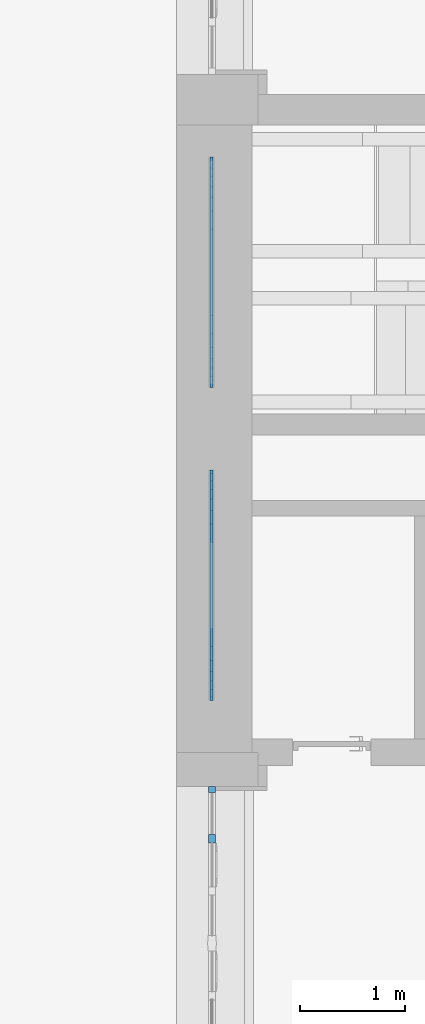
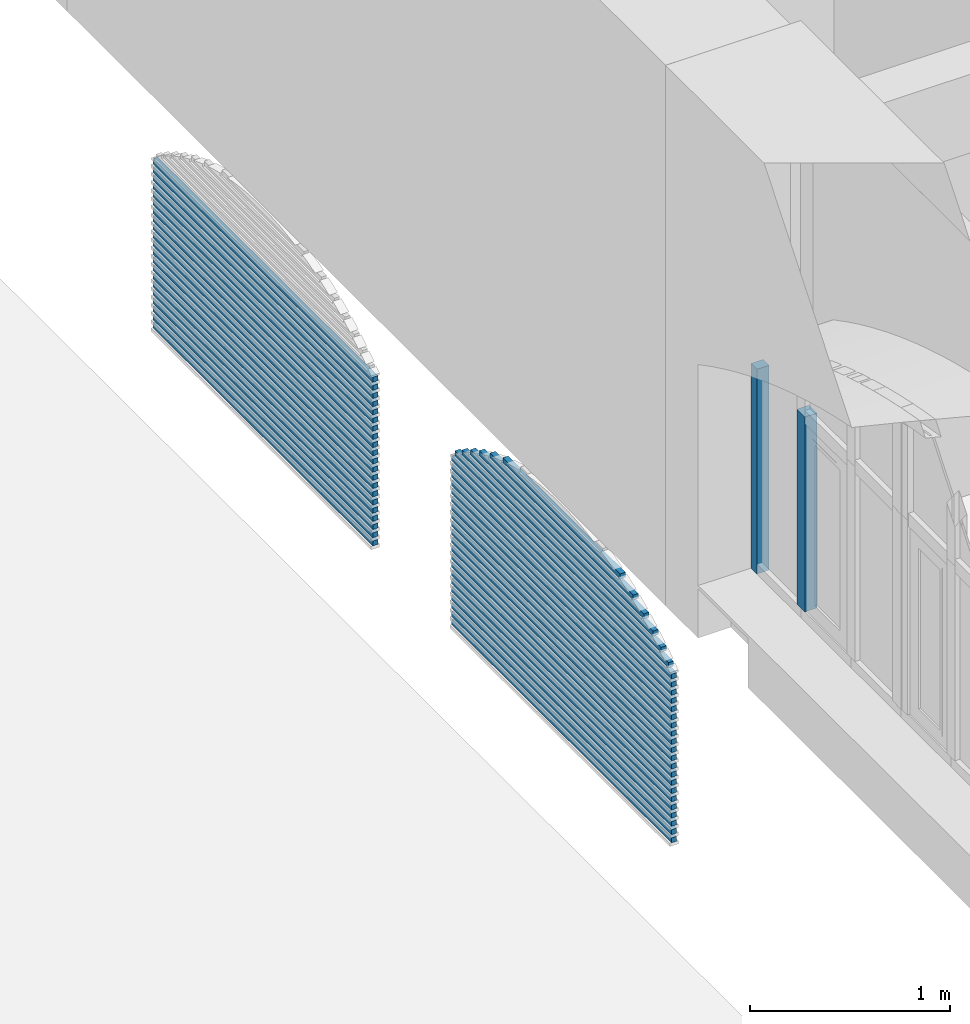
# One storey, part 9 of 88: 50 members, 3 elements without a shape of their own.
"""IFC2X3 building model written with IfcOpenShell, lengths in millimetres."""

import ifcopenshell
import ifcopenshell.guid

model = None  # the IFC model being written
_history = None  # IfcOwnerHistory: only IFC2X3 demands one
_inside = {}  # id of a spatial element -> (the spatial element, [elements in it])
_under = {}  # id of a project, library or spatial element -> (it, [spatial elements below it])
_declared = {}  # id of a project -> (the project, [libraries it declares])
_typed = {}  # id of a type object -> (the type object, [elements of that type])
_made_of = {}  # id of a material, layer set ... -> (it, [elements and type objects made of it])


def new_model(schema):
    """Start an empty IFC model of exactly this schema.

    Asked for "IFC4X3", IfcOpenShell would pick the latest addendum, in which some entities
    have other attributes; the version numbers below select the first issue.
    IFC2X3 requires an IfcOwnerHistory on every rooted entity: one is made here for all.
    """
    global model, _history
    if schema == "IFC4X3":
        model = ifcopenshell.file(schema_version=(4, 3, 0, 0))
    else:
        model = ifcopenshell.file(schema=schema)
    _inside.clear()
    _under.clear()
    _declared.clear()
    _typed.clear()
    _made_of.clear()
    _history = None
    if model.schema == "IFC2X3":
        org = make("IfcOrganization", Name="unknown")
        user = make(
            "IfcPersonAndOrganization",
            ThePerson=make("IfcPerson", FamilyName="unknown"),
            TheOrganization=org,
        )
        app = make(
            "IfcApplication",
            ApplicationDeveloper=org,
            Version="unknown",
            ApplicationFullName="unknown",
            ApplicationIdentifier="unknown",
        )
        _history = make(
            "IfcOwnerHistory",
            OwningUser=user,
            OwningApplication=app,
            ChangeAction="ADDED",
            CreationDate=0,
        )
    return model


def make(cls, **values):
    """One entity of the class cls with the attributes given. An attribute that is None is left unset."""
    return model.create_entity(
        cls, **{name: value for name, value in values.items() if value is not None}
    )


def entity(cls, *values):
    """Any entity or typed value of the class cls, its attributes in the order of the schema. None: left unset."""
    e = model.create_entity(cls)
    for i, value in enumerate(values):
        if value is not None:
            e[i] = value
    return e


def rooted(cls, **values):
    """An entity with a GlobalId (a new one), such as an element, a storey or a relation."""
    return make(cls, GlobalId=ifcopenshell.guid.new(), OwnerHistory=_history, **values)


def si_unit(unit_type, name, prefix=None):
    """IfcSIUnit, for example si_unit("LENGTHUNIT", "METRE", prefix="MILLI")."""
    return make("IfcSIUnit", UnitType=unit_type, Prefix=prefix, Name=name)


def converted_unit(unit_type, name, factor, base, dimensions=None, offset=None):
    """IfcConversionBasedUnit, such as the inch: factor (a typed value) times the base unit."""
    return make(
        "IfcConversionBasedUnit"
        if offset is None
        else "IfcConversionBasedUnitWithOffset",
        ConversionOffset=offset,
        Dimensions=None
        if dimensions is None
        else entity("IfcDimensionalExponents", *dimensions),
        UnitType=unit_type,
        Name=name,
        ConversionFactor=make(
            "IfcMeasureWithUnit", ValueComponent=factor, UnitComponent=base
        ),
    )


def derived_unit(unit_type, elements):
    """IfcDerivedUnit: a product of units, each with its exponent."""
    return make(
        "IfcDerivedUnit",
        Elements=[
            make("IfcDerivedUnitElement", Unit=unit, Exponent=power)
            for unit, power in elements
        ],
        UnitType=unit_type,
    )


def assignment(units):
    """IfcUnitAssignment: the units of a project."""
    return None if units is None else make("IfcUnitAssignment", Units=units)


def point(xyz):
    """IfcCartesianPoint."""
    return None if xyz is None else make("IfcCartesianPoint", Coordinates=xyz)


def direction(xyz):
    """IfcDirection."""
    return None if xyz is None else make("IfcDirection", DirectionRatios=xyz)


def frame(location, z_axis=None, x_axis=None):
    """IfcAxis2Placement3D, a coordinate frame: its origin and axes. An axis left out is left unset."""
    return make(
        "IfcAxis2Placement3D",
        Location=point(location),
        Axis=direction(z_axis),
        RefDirection=direction(x_axis),
    )


def frame_2d(location, x_axis=None):
    """IfcAxis2Placement2D, a coordinate frame in the plane: its origin and x axis."""
    return make(
        "IfcAxis2Placement2D", Location=point(location), RefDirection=direction(x_axis)
    )


def origin():
    """The frame at (0, 0, 0) with its axes left unset."""
    return frame((0.0, 0.0, 0.0))


def origin_2d_with_axis():
    """The frame at (0, 0) in the plane with the x axis (1, 0) written out."""
    return frame_2d((0.0, 0.0), x_axis=(1.0, 0.0))


def place(relative_to, where):
    """IfcLocalPlacement: puts the frame where relative to a parent placement (None: the world)."""
    return make(
        "IfcLocalPlacement", PlacementRelTo=relative_to, RelativePlacement=where
    )


def context(
    kind, dimensions, precision=None, world=None, true_north=None, identifier=None
):
    """IfcGeometricRepresentationContext, for example the 3D "Model" context."""
    return make(
        "IfcGeometricRepresentationContext",
        ContextIdentifier=identifier,
        ContextType=kind,
        CoordinateSpaceDimension=dimensions,
        Precision=precision,
        WorldCoordinateSystem=world,
        TrueNorth=true_north,
    )


def subcontext(parent, identifier, kind, view, scale=None):
    """IfcGeometricRepresentationSubContext, for example "Body" below "Model"."""
    return make(
        "IfcGeometricRepresentationSubContext",
        ContextIdentifier=identifier,
        ContextType=kind,
        ParentContext=parent,
        TargetScale=scale,
        TargetView=view,
    )


def project(units=None, contexts=None):
    """IfcProject with its units and contexts."""
    return rooted(
        "IfcProject",
        Name="project",
        RepresentationContexts=contexts,
        UnitsInContext=assignment(units),
    )


def spatial(cls, under=None, at=None, **own):
    """A site, building, storey or space (cls), placed at a placement, below another one or the project."""
    s = rooted(cls, ObjectPlacement=at, **own)
    if under is not None:
        _under.setdefault(under.id(), (under, []))[1].append(s)
    return s


def profile(cls, at=None, kind="AREA", **sizes):
    """A parametric profile (cls). Its sizes go by their IFC names, for example OverallWidth=200.0."""
    return make(cls, ProfileType=kind, Position=at, **sizes)


def rectangle(**sizes):
    """IfcRectangleProfileDef."""
    return profile("IfcRectangleProfileDef", **sizes)


def extrude(swept, where, along, depth):
    """IfcExtrudedAreaSolid: the profile swept, set in the frame where, extruded along a direction by depth."""
    return make(
        "IfcExtrudedAreaSolid",
        SweptArea=swept,
        Position=where,
        ExtrudedDirection=direction(along),
        Depth=depth,
    )


def shape(context_of_items, identifier, shape_type, items):
    """IfcShapeRepresentation: the items that make up one representation, for example the "Body"."""
    return make(
        "IfcShapeRepresentation",
        ContextOfItems=context_of_items,
        RepresentationIdentifier=identifier,
        RepresentationType=shape_type,
        Items=items,
    )


def source(mapping_origin, context_of_items, identifier, shape_type, items):
    """IfcRepresentationMap: a shape defined once, which mapped items show again and again."""
    return make(
        "IfcRepresentationMap",
        MappingOrigin=mapping_origin,
        MappedRepresentation=shape(context_of_items, identifier, shape_type, items),
    )


def transform(
    local_origin,
    x_axis=None,
    y_axis=None,
    z_axis=None,
    scale=None,
    scale2=None,
    scale3=None,
    uniform=True,
):
    """IfcCartesianTransformationOperator3D, or its non-uniform kind. x_axis, y_axis, z_axis: its Axis1, 2, 3."""
    if uniform:
        return make(
            "IfcCartesianTransformationOperator3D",
            Axis1=direction(x_axis),
            Axis2=direction(y_axis),
            LocalOrigin=point(local_origin),
            Scale=scale,
            Axis3=direction(z_axis),
        )
    return make(
        "IfcCartesianTransformationOperator3DnonUniform",
        Axis1=direction(x_axis),
        Axis2=direction(y_axis),
        LocalOrigin=point(local_origin),
        Scale=scale,
        Axis3=direction(z_axis),
        Scale2=scale2,
        Scale3=scale3,
    )


def mapped(mapping_source, mapping_target):
    """IfcMappedItem: shows the shape of a source again, moved by a transform."""
    return make(
        "IfcMappedItem", MappingSource=mapping_source, MappingTarget=mapping_target
    )


def material(Name=None, Category=None):
    """IfcMaterial."""
    return make("IfcMaterial", Name=Name, Category=Category)


def made_of(thing, what):
    """Note that an element or type object is made of a material, layer set ...; save() writes the relation."""
    if what is not None:
        _made_of.setdefault(what.id(), (what, []))[1].append(thing)
    return thing


def type_object(cls, material=None, **own):
    """A type object (cls), such as IfcWallType, which elements share."""
    return made_of(rooted(cls, **own), material)


def type_shapes(of_type, sources):
    """Give a type object the sources (RepresentationMaps) that its elements show as mapped items."""
    of_type.RepresentationMaps = sources


def element(
    cls,
    number,
    at=None,
    inside=None,
    cuts=None,
    type_object=None,
    material=None,
    context=None,
    identifier="Body",
    shape_type=None,
    held_by="IfcProductDefinitionShape",
    body=None,
    shapes=None,
    **own,
):
    """One element of the class cls, such as IfcWall. Its Tag is "e" and its number.

    at: its placement. inside: the storey or other place that contains it. cuts: it is an
    opening in that element (IfcRelVoidsElement). A single representation is given by context,
    identifier, shape_type and body (its items); several are given by shapes. held_by: the class
    of the entity that holds the representations. save() writes the other relations.
    """
    e = rooted(cls, Tag="e%d" % number, ObjectPlacement=at, **own)
    if body is not None:
        shapes = [shape(context, identifier, shape_type, body)]
    if shapes is not None:
        e.Representation = make(held_by, Representations=shapes)
    if inside is not None:
        _inside.setdefault(inside.id(), (inside, []))[1].append(e)
    if cuts is not None:
        rooted(
            "IfcRelVoidsElement", RelatingBuildingElement=cuts, RelatedOpeningElement=e
        )
    if type_object is not None:
        _typed.setdefault(type_object.id(), (type_object, []))[1].append(e)
    return made_of(e, material)


def aggregate(whole, parts):
    """IfcRelAggregates: a whole, such as a stair, and the parts it consists of."""
    return rooted("IfcRelAggregates", RelatingObject=whole, RelatedObjects=parts)


def save(model, path):
    """Write the relations noted so far, then the file.

    IfcRelAggregates (storeys below a building ...), IfcRelContainedInSpatialStructure (elements
    in a storey), IfcRelDefinesByType, IfcRelAssociatesMaterial and IfcRelDeclares: one each for
    every whole, place, type object, material and project.
    """
    for whole, parts in _under.values():
        aggregate(whole, parts)
    for where, things in _inside.values():
        rooted(
            "IfcRelContainedInSpatialStructure",
            RelatedElements=things,
            RelatingStructure=where,
        )
    for kind, things in _typed.values():
        rooted("IfcRelDefinesByType", RelatedObjects=things, RelatingType=kind)
    for what, things in _made_of.values():
        rooted("IfcRelAssociatesMaterial", RelatedObjects=things, RelatingMaterial=what)
    for by, libraries in _declared.values():
        rooted("IfcRelDeclares", RelatingContext=by, RelatedDefinitions=libraries)
    model.write(path)


model = new_model("IFC2X3")

# Units and contexts
model_context = context("Model", 3, precision=0.01, world=origin(), true_north=direction((6.123031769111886e-17, 1.0)))
body_context = subcontext(model_context, "Body", "Model", "MODEL_VIEW")
ifc_project = project(units=[si_unit("LENGTHUNIT", "METRE", prefix="MILLI"), si_unit("AREAUNIT", "SQUARE_METRE"), si_unit("VOLUMEUNIT", "CUBIC_METRE"), converted_unit("PLANEANGLEUNIT", "DEGREE", entity("IfcPlaneAngleMeasure", 0.017453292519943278), si_unit("PLANEANGLEUNIT", "RADIAN"), dimensions=[0, 0, 0, 0, 0, 0, 0]), si_unit("MASSUNIT", "GRAM", prefix="KILO"), derived_unit("MASSDENSITYUNIT", [(si_unit("MASSUNIT", "GRAM", prefix="KILO"), 1), (si_unit("LENGTHUNIT", "METRE"), -3)]), derived_unit("IONCONCENTRATIONUNIT", [(si_unit("MASSUNIT", "GRAM", prefix="KILO"), 1), (si_unit("LENGTHUNIT", "METRE"), -3)]), derived_unit("MOMENTOFINERTIAUNIT", [(si_unit("LENGTHUNIT", "METRE"), 4)]), si_unit("TIMEUNIT", "SECOND"), si_unit("FREQUENCYUNIT", "HERTZ"), si_unit("THERMODYNAMICTEMPERATUREUNIT", "DEGREE_CELSIUS"), derived_unit("THERMALTRANSMITTANCEUNIT", [(si_unit("MASSUNIT", "GRAM", prefix="KILO"), 1), (si_unit("THERMODYNAMICTEMPERATUREUNIT", "KELVIN"), -1), (si_unit("TIMEUNIT", "SECOND"), -3)]), derived_unit("THERMALCONDUCTANCEUNIT", [(si_unit("MASSUNIT", "GRAM", prefix="KILO"), 1), (si_unit("THERMODYNAMICTEMPERATUREUNIT", "KELVIN"), -1), (si_unit("TIMEUNIT", "SECOND"), -3), (si_unit("LENGTHUNIT", "METRE"), 1)]), derived_unit("VOLUMETRICFLOWRATEUNIT", [(si_unit("LENGTHUNIT", "METRE", prefix="DECI"), 3), (si_unit("TIMEUNIT", "SECOND"), -1)]), derived_unit("MASSFLOWRATEUNIT", [(si_unit("MASSUNIT", "GRAM", prefix="KILO"), 1), (si_unit("TIMEUNIT", "SECOND"), -1)]), derived_unit("ROTATIONALFREQUENCYUNIT", [(si_unit("TIMEUNIT", "SECOND"), -1)]), si_unit("ELECTRICCURRENTUNIT", "AMPERE"), si_unit("ELECTRICVOLTAGEUNIT", "VOLT"), si_unit("POWERUNIT", "WATT"), si_unit("FORCEUNIT", "NEWTON", prefix="KILO"), si_unit("ILLUMINANCEUNIT", "LUX"), si_unit("LUMINOUSFLUXUNIT", "LUMEN"), si_unit("LUMINOUSINTENSITYUNIT", "CANDELA"), si_unit("ENERGYUNIT", "JOULE"), derived_unit("USERDEFINED", [(si_unit("MASSUNIT", "GRAM", prefix="KILO"), -1), (si_unit("LENGTHUNIT", "METRE"), -2), (si_unit("TIMEUNIT", "SECOND"), 3), (si_unit("LUMINOUSFLUXUNIT", "LUMEN"), 1)]), derived_unit("USERDEFINED", [(si_unit("MASSUNIT", "GRAM", prefix="KILO"), 1), (si_unit("TIMEUNIT", "SECOND"), -3), (si_unit("LENGTHUNIT", "METRE"), 3), (si_unit("ELECTRICCURRENTUNIT", "AMPERE"), -2)]), derived_unit("SOUNDPOWERUNIT", [(si_unit("MASSUNIT", "GRAM", prefix="KILO"), 1), (si_unit("TIMEUNIT", "SECOND"), -3), (si_unit("LENGTHUNIT", "METRE"), 2)]), derived_unit("SOUNDPRESSUREUNIT", [(si_unit("MASSUNIT", "GRAM", prefix="KILO"), 1), (si_unit("LENGTHUNIT", "METRE"), -1), (si_unit("TIMEUNIT", "SECOND"), -2)]), derived_unit("LINEARVELOCITYUNIT", [(si_unit("LENGTHUNIT", "METRE"), 1), (si_unit("TIMEUNIT", "SECOND"), -1)]), si_unit("PRESSUREUNIT", "PASCAL"), derived_unit("USERDEFINED", [(si_unit("MASSUNIT", "GRAM", prefix="KILO"), 1), (si_unit("LENGTHUNIT", "METRE"), -2), (si_unit("TIMEUNIT", "SECOND"), -2)]), derived_unit("LINEARFORCEUNIT", [(si_unit("MASSUNIT", "GRAM", prefix="KILO"), 1), (si_unit("TIMEUNIT", "SECOND"), -2)]), derived_unit("PLANARFORCEUNIT", [(si_unit("MASSUNIT", "GRAM", prefix="KILO"), 1), (si_unit("LENGTHUNIT", "METRE"), -1), (si_unit("TIMEUNIT", "SECOND"), -2)]), derived_unit("SPECIFICHEATCAPACITYUNIT", [(si_unit("THERMODYNAMICTEMPERATUREUNIT", "KELVIN"), -1), (si_unit("LENGTHUNIT", "METRE"), 2), (si_unit("TIMEUNIT", "SECOND"), -2)]), derived_unit("HEATFLUXDENSITYUNIT", [(si_unit("MASSUNIT", "GRAM", prefix="KILO"), 1), (si_unit("TIMEUNIT", "SECOND"), -3)]), derived_unit("HEATINGVALUEUNIT", [(si_unit("LENGTHUNIT", "METRE"), 2), (si_unit("TIMEUNIT", "SECOND"), -2)]), derived_unit("VAPORPERMEABILITYUNIT", [(si_unit("LENGTHUNIT", "METRE"), -1), (si_unit("TIMEUNIT", "SECOND"), 1)]), derived_unit("DYNAMICVISCOSITYUNIT", [(si_unit("MASSUNIT", "GRAM", prefix="KILO"), 1), (si_unit("TIMEUNIT", "SECOND"), -1), (si_unit("LENGTHUNIT", "METRE"), -1)]), derived_unit("THERMALEXPANSIONCOEFFICIENTUNIT", [(si_unit("THERMODYNAMICTEMPERATUREUNIT", "KELVIN"), -1)]), derived_unit("MODULUSOFELASTICITYUNIT", [(si_unit("MASSUNIT", "GRAM", prefix="KILO"), 1), (si_unit("LENGTHUNIT", "METRE"), -1), (si_unit("TIMEUNIT", "SECOND"), -2)]), derived_unit("ISOTHERMALMOISTURECAPACITYUNIT", [(si_unit("MASSUNIT", "GRAM", prefix="KILO"), -1), (si_unit("LENGTHUNIT", "METRE"), 3)]), derived_unit("MOISTUREDIFFUSIVITYUNIT", [(si_unit("TIMEUNIT", "SECOND"), -1), (si_unit("LENGTHUNIT", "METRE"), 2)]), derived_unit("MASSPERLENGTHUNIT", [(si_unit("MASSUNIT", "GRAM", prefix="KILO"), 1), (si_unit("LENGTHUNIT", "METRE"), -1)]), derived_unit("THERMALRESISTANCEUNIT", [(si_unit("MASSUNIT", "GRAM", prefix="KILO"), -1), (si_unit("TIMEUNIT", "SECOND"), 3), (si_unit("THERMODYNAMICTEMPERATUREUNIT", "KELVIN"), 1)]), derived_unit("ACCELERATIONUNIT", [(si_unit("LENGTHUNIT", "METRE"), 1), (si_unit("TIMEUNIT", "SECOND"), -2)]), derived_unit("ANGULARVELOCITYUNIT", [(si_unit("TIMEUNIT", "SECOND"), -1), (si_unit("PLANEANGLEUNIT", "RADIAN"), 1)]), derived_unit("LINEARSTIFFNESSUNIT", [(si_unit("MASSUNIT", "GRAM", prefix="KILO"), 1), (si_unit("TIMEUNIT", "SECOND"), -2)]), derived_unit("WARPINGCONSTANTUNIT", [(si_unit("LENGTHUNIT", "METRE"), 6)]), derived_unit("LINEARMOMENTUNIT", [(si_unit("MASSUNIT", "GRAM", prefix="KILO"), 1), (si_unit("LENGTHUNIT", "METRE"), 1), (si_unit("TIMEUNIT", "SECOND"), -2)]), derived_unit("TORQUEUNIT", [(si_unit("MASSUNIT", "GRAM", prefix="KILO"), 1), (si_unit("LENGTHUNIT", "METRE"), 2), (si_unit("TIMEUNIT", "SECOND"), -2)])], contexts=[model_context])

# Site, building, storey
site_placement = place(None, origin())
site = spatial("IfcSite", under=ifc_project, at=site_placement, Name="Default", CompositionType="ELEMENT")
building_placement = place(site_placement, origin())
building = spatial("IfcBuilding", under=site, at=building_placement, Name="Eesti Rahvusraamatukogu hoone renoveerimise projekteerimistööd", CompositionType="ELEMENT")
storey_placement = place(building_placement, origin())
storey = spatial("IfcBuildingStorey", under=building, at=storey_placement, Name="1. korrus", CompositionType="ELEMENT", Elevation=0.0)

# Curtain wall, members
curtain_wall_type_1 = type_object("IfcCurtainWallType", Name="Curtain Wall:ol. olev MK vent. rest", PredefinedType="NOTDEFINED")
curtain_wall_1_placement = place(storey_placement, origin())
curtain_wall_1 = element("IfcCurtainWall", 1, at=curtain_wall_1_placement, inside=storey, type_object=curtain_wall_type_1, Name="Curtain Wall:ol. olev MK vent. rest", ObjectType="Curtain Wall:ol. olev MK vent. rest")
ifc_material_1 = material(Name="<Unnamed>")
member_type_1 = type_object("IfcMemberType", Name="Rectangular Mullion:30mm Square", PredefinedType="MULLION", material=ifc_material_1)
shared_shape_1 = source(origin(), body_context, "Body", "SweptSolid", [
    extrude(rectangle(XDim=30.0, YDim=30.0, at=origin_2d_with_axis()), frame((0.0, 0.0, -2200.0), z_axis=(0.0, 0.0, 1.0), x_axis=(-1.0, 0.0, 0.0)), (0.0, 0.0, 1.0), 2200.0000000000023),
])
type_shapes(member_type_1, [shared_shape_1])
member_1_placement = place(curtain_wall_1_placement, frame((-36445.0, 24810.0, -195.0), z_axis=(0.0, -1.0, 0.0), x_axis=(0.0, 0.0, 1.0)))
member_1 = element("IfcMember", 2, at=member_1_placement, type_object=member_type_1, material=ifc_material_1, Name="Rectangular Mullion:30mm Square", ObjectType="Rectangular Mullion:30mm Square", context=body_context, shape_type="MappedRepresentation", body=[
    mapped(shared_shape_1, transform((0.0, 0.0, 0.0), scale=1.0)),
])
member_2_placement = place(curtain_wall_1_placement, frame((-36445.0, 24810.0, -145.0), z_axis=(0.0, -1.0, 0.0), x_axis=(0.0, 0.0, 1.0)))
member_2 = element("IfcMember", 3, at=member_2_placement, type_object=member_type_1, material=ifc_material_1, Name="Rectangular Mullion:30mm Square", ObjectType="Rectangular Mullion:30mm Square", context=body_context, shape_type="MappedRepresentation", body=[
    mapped(shared_shape_1, transform((0.0, 0.0, 0.0), scale=1.0)),
])
member_3_placement = place(curtain_wall_1_placement, frame((-36445.0, 24810.0, -95.0), z_axis=(0.0, -1.0, 0.0), x_axis=(0.0, 0.0, 1.0)))
member_3 = element("IfcMember", 4, at=member_3_placement, type_object=member_type_1, material=ifc_material_1, Name="Rectangular Mullion:30mm Square", ObjectType="Rectangular Mullion:30mm Square", context=body_context, shape_type="MappedRepresentation", body=[
    mapped(shared_shape_1, transform((0.0, 0.0, 0.0), scale=1.0)),
])
member_4_placement = place(curtain_wall_1_placement, frame((-36445.0, 24810.0, -45.0), z_axis=(0.0, -1.0, 0.0), x_axis=(0.0, 0.0, 1.0)))
member_4 = element("IfcMember", 5, at=member_4_placement, type_object=member_type_1, material=ifc_material_1, Name="Rectangular Mullion:30mm Square", ObjectType="Rectangular Mullion:30mm Square", context=body_context, shape_type="MappedRepresentation", body=[
    mapped(shared_shape_1, transform((0.0, 0.0, 0.0), scale=1.0)),
])
member_5_placement = place(curtain_wall_1_placement, frame((-36445.0, 24810.0, 5.0), z_axis=(0.0, -1.0, 0.0), x_axis=(0.0, 0.0, 1.0)))
member_5 = element("IfcMember", 6, at=member_5_placement, type_object=member_type_1, material=ifc_material_1, Name="Rectangular Mullion:30mm Square", ObjectType="Rectangular Mullion:30mm Square", context=body_context, shape_type="MappedRepresentation", body=[
    mapped(shared_shape_1, transform((0.0, 0.0, 0.0), scale=1.0)),
])
member_6_placement = place(curtain_wall_1_placement, frame((-36445.0, 24810.0, 55.0), z_axis=(0.0, -1.0, 0.0), x_axis=(0.0, 0.0, 1.0)))
member_6 = element("IfcMember", 7, at=member_6_placement, type_object=member_type_1, material=ifc_material_1, Name="Rectangular Mullion:30mm Square", ObjectType="Rectangular Mullion:30mm Square", context=body_context, shape_type="MappedRepresentation", body=[
    mapped(shared_shape_1, transform((0.0, 0.0, 0.0), scale=1.0)),
])
member_7_placement = place(curtain_wall_1_placement, frame((-36445.0, 24810.0, 105.0), z_axis=(0.0, -1.0, 0.0), x_axis=(0.0, 0.0, 1.0)))
member_7 = element("IfcMember", 8, at=member_7_placement, type_object=member_type_1, material=ifc_material_1, Name="Rectangular Mullion:30mm Square", ObjectType="Rectangular Mullion:30mm Square", context=body_context, shape_type="MappedRepresentation", body=[
    mapped(shared_shape_1, transform((0.0, 0.0, 0.0), scale=1.0)),
])
member_8_placement = place(curtain_wall_1_placement, frame((-36445.0, 24810.0, 155.0), z_axis=(0.0, -1.0, 0.0), x_axis=(0.0, 0.0, 1.0)))
member_8 = element("IfcMember", 9, at=member_8_placement, type_object=member_type_1, material=ifc_material_1, Name="Rectangular Mullion:30mm Square", ObjectType="Rectangular Mullion:30mm Square", context=body_context, shape_type="MappedRepresentation", body=[
    mapped(shared_shape_1, transform((0.0, 0.0, 0.0), scale=1.0)),
])
member_9_placement = place(curtain_wall_1_placement, frame((-36445.0, 24810.0, 205.0), z_axis=(0.0, -1.0, 0.0), x_axis=(0.0, 0.0, 1.0)))
member_9 = element("IfcMember", 10, at=member_9_placement, type_object=member_type_1, material=ifc_material_1, Name="Rectangular Mullion:30mm Square", ObjectType="Rectangular Mullion:30mm Square", context=body_context, shape_type="MappedRepresentation", body=[
    mapped(shared_shape_1, transform((0.0, 0.0, 0.0), scale=1.0)),
])
member_10_placement = place(curtain_wall_1_placement, frame((-36445.0, 24810.0, 255.0), z_axis=(0.0, -1.0, 0.0), x_axis=(0.0, 0.0, 1.0)))
member_10 = element("IfcMember", 11, at=member_10_placement, type_object=member_type_1, material=ifc_material_1, Name="Rectangular Mullion:30mm Square", ObjectType="Rectangular Mullion:30mm Square", context=body_context, shape_type="MappedRepresentation", body=[
    mapped(shared_shape_1, transform((0.0, 0.0, 0.0), scale=1.0)),
])
member_11_placement = place(curtain_wall_1_placement, frame((-36445.0, 24810.0, 305.0), z_axis=(0.0, -1.0, 0.0), x_axis=(0.0, 0.0, 1.0)))
member_11 = element("IfcMember", 12, at=member_11_placement, type_object=member_type_1, material=ifc_material_1, Name="Rectangular Mullion:30mm Square", ObjectType="Rectangular Mullion:30mm Square", context=body_context, shape_type="MappedRepresentation", body=[
    mapped(shared_shape_1, transform((0.0, 0.0, 0.0), scale=1.0)),
])
member_12_placement = place(curtain_wall_1_placement, frame((-36445.0, 24810.0, 355.0), z_axis=(0.0, -1.0, 0.0), x_axis=(0.0, 0.0, 1.0)))
member_12 = element("IfcMember", 13, at=member_12_placement, type_object=member_type_1, material=ifc_material_1, Name="Rectangular Mullion:30mm Square", ObjectType="Rectangular Mullion:30mm Square", context=body_context, shape_type="MappedRepresentation", body=[
    mapped(shared_shape_1, transform((0.0, 0.0, 0.0), scale=1.0)),
])
member_13_placement = place(curtain_wall_1_placement, frame((-36445.0, 24810.0, 405.0), z_axis=(0.0, -1.0, 0.0), x_axis=(0.0, 0.0, 1.0)))
member_13 = element("IfcMember", 14, at=member_13_placement, type_object=member_type_1, material=ifc_material_1, Name="Rectangular Mullion:30mm Square", ObjectType="Rectangular Mullion:30mm Square", context=body_context, shape_type="MappedRepresentation", body=[
    mapped(shared_shape_1, transform((0.0, 0.0, 0.0), scale=1.0)),
])
member_14_placement = place(curtain_wall_1_placement, frame((-36445.0, 24810.0, 455.0), z_axis=(0.0, -1.0, 0.0), x_axis=(0.0, 0.0, 1.0)))
member_14 = element("IfcMember", 15, at=member_14_placement, type_object=member_type_1, material=ifc_material_1, Name="Rectangular Mullion:30mm Square", ObjectType="Rectangular Mullion:30mm Square", context=body_context, shape_type="MappedRepresentation", body=[
    mapped(shared_shape_1, transform((0.0, 0.0, 0.0), scale=1.0)),
])
member_15_placement = place(curtain_wall_1_placement, frame((-36445.0, 24810.0, 505.0), z_axis=(0.0, -1.0, 0.0), x_axis=(0.0, 0.0, 1.0)))
member_15 = element("IfcMember", 16, at=member_15_placement, type_object=member_type_1, material=ifc_material_1, Name="Rectangular Mullion:30mm Square", ObjectType="Rectangular Mullion:30mm Square", context=body_context, shape_type="MappedRepresentation", body=[
    mapped(shared_shape_1, transform((0.0, 0.0, 0.0), scale=1.0)),
])
member_16_placement = place(curtain_wall_1_placement, frame((-36445.0, 24810.0, 555.0), z_axis=(0.0, -1.0, 0.0), x_axis=(0.0, 0.0, 1.0)))
member_16 = element("IfcMember", 17, at=member_16_placement, type_object=member_type_1, material=ifc_material_1, Name="Rectangular Mullion:30mm Square", ObjectType="Rectangular Mullion:30mm Square", context=body_context, shape_type="MappedRepresentation", body=[
    mapped(shared_shape_1, transform((0.0, 0.0, 0.0), scale=1.0)),
])
member_17_placement = place(curtain_wall_1_placement, frame((-36445.0, 24810.0, 605.0), z_axis=(0.0, -1.0, 0.0), x_axis=(0.0, 0.0, 1.0)))
member_17 = element("IfcMember", 18, at=member_17_placement, type_object=member_type_1, material=ifc_material_1, Name="Rectangular Mullion:30mm Square", ObjectType="Rectangular Mullion:30mm Square", context=body_context, shape_type="MappedRepresentation", body=[
    mapped(shared_shape_1, transform((0.0, 0.0, 0.0), scale=1.0)),
])
member_18_placement = place(curtain_wall_1_placement, frame((-36445.0, 24810.0, 655.0), z_axis=(0.0, -1.0, 0.0), x_axis=(0.0, 0.0, 1.0)))
member_18 = element("IfcMember", 19, at=member_18_placement, type_object=member_type_1, material=ifc_material_1, Name="Rectangular Mullion:30mm Square", ObjectType="Rectangular Mullion:30mm Square", context=body_context, shape_type="MappedRepresentation", body=[
    mapped(shared_shape_1, transform((0.0, 0.0, 0.0), scale=1.0)),
])
member_19_placement = place(curtain_wall_1_placement, frame((-36445.0, 24810.0, 705.0), z_axis=(0.0, -1.0, 0.0), x_axis=(0.0, 0.0, 1.0)))
member_19 = element("IfcMember", 20, at=member_19_placement, type_object=member_type_1, material=ifc_material_1, Name="Rectangular Mullion:30mm Square", ObjectType="Rectangular Mullion:30mm Square", context=body_context, shape_type="MappedRepresentation", body=[
    mapped(shared_shape_1, transform((0.0, 0.0, 0.0), scale=1.0)),
])
member_20_placement = place(curtain_wall_1_placement, frame((-36445.0, 24810.0, 755.0), z_axis=(0.0, -1.0, 0.0), x_axis=(0.0, 0.0, 1.0)))
member_20 = element("IfcMember", 21, at=member_20_placement, type_object=member_type_1, material=ifc_material_1, Name="Rectangular Mullion:30mm Square", ObjectType="Rectangular Mullion:30mm Square", context=body_context, shape_type="MappedRepresentation", body=[
    mapped(shared_shape_1, transform((0.0, 0.0, 0.0), scale=1.0)),
])
member_21_placement = place(curtain_wall_1_placement, frame((-36445.0, 24810.0, 805.0), z_axis=(0.0, -1.0, 0.0), x_axis=(0.0, 0.0, 1.0)))
member_21 = element("IfcMember", 22, at=member_21_placement, type_object=member_type_1, material=ifc_material_1, Name="Rectangular Mullion:30mm Square", ObjectType="Rectangular Mullion:30mm Square", context=body_context, shape_type="MappedRepresentation", body=[
    mapped(shared_shape_1, transform((0.0, 0.0, 0.0), scale=1.0)),
])

curtain_wall_2_placement = place(storey_placement, origin())
curtain_wall_2 = element("IfcCurtainWall", 23, at=curtain_wall_2_placement, inside=storey, type_object=curtain_wall_type_1, Name="Curtain Wall:ol. olev MK vent. rest", ObjectType="Curtain Wall:ol. olev MK vent. rest")
member_22_placement = place(curtain_wall_2_placement, frame((-36445.0, 27798.634341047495, -195.0), z_axis=(0.0, -1.0, 0.0), x_axis=(0.0, 0.0, 1.0)))
member_22 = element("IfcMember", 24, at=member_22_placement, type_object=member_type_1, material=ifc_material_1, Name="Rectangular Mullion:30mm Square", ObjectType="Rectangular Mullion:30mm Square", context=body_context, shape_type="MappedRepresentation", body=[
    mapped(shared_shape_1, transform((0.0, 0.0, 0.0), scale=1.0)),
])
member_23_placement = place(curtain_wall_2_placement, frame((-36445.0, 27798.634341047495, -145.0), z_axis=(0.0, -1.0, 0.0), x_axis=(0.0, 0.0, 1.0)))
member_23 = element("IfcMember", 25, at=member_23_placement, type_object=member_type_1, material=ifc_material_1, Name="Rectangular Mullion:30mm Square", ObjectType="Rectangular Mullion:30mm Square", context=body_context, shape_type="MappedRepresentation", body=[
    mapped(shared_shape_1, transform((0.0, 0.0, 0.0), scale=1.0)),
])
member_24_placement = place(curtain_wall_2_placement, frame((-36445.0, 27798.634341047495, -95.0), z_axis=(0.0, -1.0, 0.0), x_axis=(0.0, 0.0, 1.0)))
member_24 = element("IfcMember", 26, at=member_24_placement, type_object=member_type_1, material=ifc_material_1, Name="Rectangular Mullion:30mm Square", ObjectType="Rectangular Mullion:30mm Square", context=body_context, shape_type="MappedRepresentation", body=[
    mapped(shared_shape_1, transform((0.0, 0.0, 0.0), scale=1.0)),
])
member_25_placement = place(curtain_wall_2_placement, frame((-36445.0, 27798.634341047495, -45.0), z_axis=(0.0, -1.0, 0.0), x_axis=(0.0, 0.0, 1.0)))
member_25 = element("IfcMember", 27, at=member_25_placement, type_object=member_type_1, material=ifc_material_1, Name="Rectangular Mullion:30mm Square", ObjectType="Rectangular Mullion:30mm Square", context=body_context, shape_type="MappedRepresentation", body=[
    mapped(shared_shape_1, transform((0.0, 0.0, 0.0), scale=1.0)),
])
member_26_placement = place(curtain_wall_2_placement, frame((-36445.0, 27798.634341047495, 5.0), z_axis=(0.0, -1.0, 0.0), x_axis=(0.0, 0.0, 1.0)))
member_26 = element("IfcMember", 28, at=member_26_placement, type_object=member_type_1, material=ifc_material_1, Name="Rectangular Mullion:30mm Square", ObjectType="Rectangular Mullion:30mm Square", context=body_context, shape_type="MappedRepresentation", body=[
    mapped(shared_shape_1, transform((0.0, 0.0, 0.0), scale=1.0)),
])
member_27_placement = place(curtain_wall_2_placement, frame((-36445.0, 27798.634341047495, 55.0), z_axis=(0.0, -1.0, 0.0), x_axis=(0.0, 0.0, 1.0)))
member_27 = element("IfcMember", 29, at=member_27_placement, type_object=member_type_1, material=ifc_material_1, Name="Rectangular Mullion:30mm Square", ObjectType="Rectangular Mullion:30mm Square", context=body_context, shape_type="MappedRepresentation", body=[
    mapped(shared_shape_1, transform((0.0, 0.0, 0.0), scale=1.0)),
])
member_28_placement = place(curtain_wall_2_placement, frame((-36445.0, 27798.634341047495, 105.0), z_axis=(0.0, -1.0, 0.0), x_axis=(0.0, 0.0, 1.0)))
member_28 = element("IfcMember", 30, at=member_28_placement, type_object=member_type_1, material=ifc_material_1, Name="Rectangular Mullion:30mm Square", ObjectType="Rectangular Mullion:30mm Square", context=body_context, shape_type="MappedRepresentation", body=[
    mapped(shared_shape_1, transform((0.0, 0.0, 0.0), scale=1.0)),
])
member_29_placement = place(curtain_wall_2_placement, frame((-36445.0, 27798.634341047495, 155.0), z_axis=(0.0, -1.0, 0.0), x_axis=(0.0, 0.0, 1.0)))
member_29 = element("IfcMember", 31, at=member_29_placement, type_object=member_type_1, material=ifc_material_1, Name="Rectangular Mullion:30mm Square", ObjectType="Rectangular Mullion:30mm Square", context=body_context, shape_type="MappedRepresentation", body=[
    mapped(shared_shape_1, transform((0.0, 0.0, 0.0), scale=1.0)),
])
member_30_placement = place(curtain_wall_2_placement, frame((-36445.0, 27798.634341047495, 205.0), z_axis=(0.0, -1.0, 0.0), x_axis=(0.0, 0.0, 1.0)))
member_30 = element("IfcMember", 32, at=member_30_placement, type_object=member_type_1, material=ifc_material_1, Name="Rectangular Mullion:30mm Square", ObjectType="Rectangular Mullion:30mm Square", context=body_context, shape_type="MappedRepresentation", body=[
    mapped(shared_shape_1, transform((0.0, 0.0, 0.0), scale=1.0)),
])
member_31_placement = place(curtain_wall_2_placement, frame((-36445.0, 27798.634341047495, 255.0), z_axis=(0.0, -1.0, 0.0), x_axis=(0.0, 0.0, 1.0)))
member_31 = element("IfcMember", 33, at=member_31_placement, type_object=member_type_1, material=ifc_material_1, Name="Rectangular Mullion:30mm Square", ObjectType="Rectangular Mullion:30mm Square", context=body_context, shape_type="MappedRepresentation", body=[
    mapped(shared_shape_1, transform((0.0, 0.0, 0.0), scale=1.0)),
])
member_32_placement = place(curtain_wall_2_placement, frame((-36445.0, 27798.634341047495, 305.0), z_axis=(0.0, -1.0, 0.0), x_axis=(0.0, 0.0, 1.0)))
member_32 = element("IfcMember", 34, at=member_32_placement, type_object=member_type_1, material=ifc_material_1, Name="Rectangular Mullion:30mm Square", ObjectType="Rectangular Mullion:30mm Square", context=body_context, shape_type="MappedRepresentation", body=[
    mapped(shared_shape_1, transform((0.0, 0.0, 0.0), scale=1.0)),
])
member_33_placement = place(curtain_wall_2_placement, frame((-36445.0, 27798.634341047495, 355.0), z_axis=(0.0, -1.0, 0.0), x_axis=(0.0, 0.0, 1.0)))
member_33 = element("IfcMember", 35, at=member_33_placement, type_object=member_type_1, material=ifc_material_1, Name="Rectangular Mullion:30mm Square", ObjectType="Rectangular Mullion:30mm Square", context=body_context, shape_type="MappedRepresentation", body=[
    mapped(shared_shape_1, transform((0.0, 0.0, 0.0), scale=1.0)),
])
member_34_placement = place(curtain_wall_2_placement, frame((-36445.0, 27798.634341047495, 405.0), z_axis=(0.0, -1.0, 0.0), x_axis=(0.0, 0.0, 1.0)))
member_34 = element("IfcMember", 36, at=member_34_placement, type_object=member_type_1, material=ifc_material_1, Name="Rectangular Mullion:30mm Square", ObjectType="Rectangular Mullion:30mm Square", context=body_context, shape_type="MappedRepresentation", body=[
    mapped(shared_shape_1, transform((0.0, 0.0, 0.0), scale=1.0)),
])
member_35_placement = place(curtain_wall_2_placement, frame((-36445.0, 27798.634341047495, 455.0), z_axis=(0.0, -1.0, 0.0), x_axis=(0.0, 0.0, 1.0)))
member_35 = element("IfcMember", 37, at=member_35_placement, type_object=member_type_1, material=ifc_material_1, Name="Rectangular Mullion:30mm Square", ObjectType="Rectangular Mullion:30mm Square", context=body_context, shape_type="MappedRepresentation", body=[
    mapped(shared_shape_1, transform((0.0, 0.0, 0.0), scale=1.0)),
])
member_36_placement = place(curtain_wall_2_placement, frame((-36445.0, 27798.634341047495, 505.0), z_axis=(0.0, -1.0, 0.0), x_axis=(0.0, 0.0, 1.0)))
member_36 = element("IfcMember", 38, at=member_36_placement, type_object=member_type_1, material=ifc_material_1, Name="Rectangular Mullion:30mm Square", ObjectType="Rectangular Mullion:30mm Square", context=body_context, shape_type="MappedRepresentation", body=[
    mapped(shared_shape_1, transform((0.0, 0.0, 0.0), scale=1.0)),
])
member_37_placement = place(curtain_wall_2_placement, frame((-36445.0, 27798.634341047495, 555.0), z_axis=(0.0, -1.0, 0.0), x_axis=(0.0, 0.0, 1.0)))
member_37 = element("IfcMember", 39, at=member_37_placement, type_object=member_type_1, material=ifc_material_1, Name="Rectangular Mullion:30mm Square", ObjectType="Rectangular Mullion:30mm Square", context=body_context, shape_type="MappedRepresentation", body=[
    mapped(shared_shape_1, transform((0.0, 0.0, 0.0), scale=1.0)),
])
member_38_placement = place(curtain_wall_2_placement, frame((-36445.0, 27798.634341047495, 605.0), z_axis=(0.0, -1.0, 0.0), x_axis=(0.0, 0.0, 1.0)))
member_38 = element("IfcMember", 40, at=member_38_placement, type_object=member_type_1, material=ifc_material_1, Name="Rectangular Mullion:30mm Square", ObjectType="Rectangular Mullion:30mm Square", context=body_context, shape_type="MappedRepresentation", body=[
    mapped(shared_shape_1, transform((0.0, 0.0, 0.0), scale=1.0)),
])
member_39_placement = place(curtain_wall_2_placement, frame((-36445.0, 27798.634341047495, 655.0), z_axis=(0.0, -1.0, 0.0), x_axis=(0.0, 0.0, 1.0)))
member_39 = element("IfcMember", 41, at=member_39_placement, type_object=member_type_1, material=ifc_material_1, Name="Rectangular Mullion:30mm Square", ObjectType="Rectangular Mullion:30mm Square", context=body_context, shape_type="MappedRepresentation", body=[
    mapped(shared_shape_1, transform((0.0, 0.0, 0.0), scale=1.0)),
])
member_40_placement = place(curtain_wall_2_placement, frame((-36445.0, 27798.634341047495, 705.0), z_axis=(0.0, -1.0, 0.0), x_axis=(0.0, 0.0, 1.0)))
member_40 = element("IfcMember", 42, at=member_40_placement, type_object=member_type_1, material=ifc_material_1, Name="Rectangular Mullion:30mm Square", ObjectType="Rectangular Mullion:30mm Square", context=body_context, shape_type="MappedRepresentation", body=[
    mapped(shared_shape_1, transform((0.0, 0.0, 0.0), scale=1.0)),
])
member_41_placement = place(curtain_wall_2_placement, frame((-36445.0, 27798.634341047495, 755.0), z_axis=(0.0, -1.0, 0.0), x_axis=(0.0, 0.0, 1.0)))
member_41 = element("IfcMember", 43, at=member_41_placement, type_object=member_type_1, material=ifc_material_1, Name="Rectangular Mullion:30mm Square", ObjectType="Rectangular Mullion:30mm Square", context=body_context, shape_type="MappedRepresentation", body=[
    mapped(shared_shape_1, transform((0.0, 0.0, 0.0), scale=1.0)),
])
member_42_placement = place(curtain_wall_2_placement, frame((-36445.0, 27798.634341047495, 805.0), z_axis=(0.0, -1.0, 0.0), x_axis=(0.0, 0.0, 1.0)))
member_42 = element("IfcMember", 44, at=member_42_placement, type_object=member_type_1, material=ifc_material_1, Name="Rectangular Mullion:30mm Square", ObjectType="Rectangular Mullion:30mm Square", context=body_context, shape_type="MappedRepresentation", body=[
    mapped(shared_shape_1, transform((0.0, 0.0, 0.0), scale=1.0)),
])
aggregate(curtain_wall_2, [member_22, member_23, member_24, member_25, member_26, member_27, member_28, member_29, member_30, member_31, member_32, member_33, member_34, member_35, member_36, member_37, member_38, member_39, member_40, member_41, member_42])

# Member
member_type_2 = type_object("IfcMemberType", Name="Rectangular Mullion:30mm Square", PredefinedType="MULLION", material=ifc_material_1)
shared_shape_2 = source(origin(), body_context, "Body", "SweptSolid", [
    extrude(rectangle(XDim=30.0, YDim=30.0, at=origin_2d_with_axis()), frame((0.0, 0.0, -2134.9307516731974), z_axis=(0.0, 0.0, 1.0), x_axis=(-1.0, 0.0, 0.0)), (0.0, 0.0, 1.0), 2134.9307516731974),
])
type_shapes(member_type_2, [shared_shape_2])
member_43_placement = place(curtain_wall_1_placement, frame((-36445.0, 24841.511814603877, 855.0), z_axis=(0.0, -1.0, 0.0), x_axis=(0.0, 0.0, 1.0)))
member_43 = element("IfcMember", 45, at=member_43_placement, type_object=member_type_2, material=ifc_material_1, Name="Rectangular Mullion:30mm Square", ObjectType="Rectangular Mullion:30mm Square", context=body_context, shape_type="MappedRepresentation", body=[
    mapped(shared_shape_2, transform((0.0, 0.0, 0.0), scale=1.0)),
])

member_type_3 = type_object("IfcMemberType", Name="Rectangular Mullion:30mm Square", PredefinedType="MULLION", material=ifc_material_1)
shared_shape_3 = source(origin(), body_context, "Body", "SweptSolid", [
    extrude(rectangle(XDim=30.0, YDim=30.0, at=origin_2d_with_axis()), frame((0.0, 0.0, -1990.170376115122), z_axis=(0.0, 0.0, 1.0), x_axis=(-1.0, 0.0, 0.0)), (0.0, 0.0, 1.0), 1990.170376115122),
])
type_shapes(member_type_3, [shared_shape_3])
member_44_placement = place(curtain_wall_1_placement, frame((-36445.0, 24913.892002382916, 905.0), z_axis=(0.0, -1.0, 0.0), x_axis=(0.0, 0.0, 1.0)))
member_44 = element("IfcMember", 46, at=member_44_placement, type_object=member_type_3, material=ifc_material_1, Name="Rectangular Mullion:30mm Square", ObjectType="Rectangular Mullion:30mm Square", context=body_context, shape_type="MappedRepresentation", body=[
    mapped(shared_shape_3, transform((0.0, 0.0, 0.0), scale=1.0)),
])

member_type_4 = type_object("IfcMemberType", Name="Rectangular Mullion:30mm Square", PredefinedType="MULLION", material=ifc_material_1)
shared_shape_4 = source(origin(), body_context, "Body", "SweptSolid", [
    extrude(rectangle(XDim=30.0, YDim=30.0, at=origin_2d_with_axis()), frame((0.0, 0.0, -1828.5587049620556), z_axis=(0.0, 0.0, 1.0), x_axis=(-1.0, 0.0, 0.0)), (0.0, 0.0, 1.0), 1828.5587049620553),
])
type_shapes(member_type_4, [shared_shape_4])
member_45_placement = place(curtain_wall_1_placement, frame((-36445.0, 24994.69783795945, 955.0), z_axis=(0.0, -1.0, 0.0), x_axis=(0.0, 0.0, 1.0)))
member_45 = element("IfcMember", 47, at=member_45_placement, type_object=member_type_4, material=ifc_material_1, Name="Rectangular Mullion:30mm Square", ObjectType="Rectangular Mullion:30mm Square", context=body_context, shape_type="MappedRepresentation", body=[
    mapped(shared_shape_4, transform((0.0, 0.0, 0.0), scale=1.0)),
])

member_type_5 = type_object("IfcMemberType", Name="Rectangular Mullion:30mm Square", PredefinedType="MULLION", material=ifc_material_1)
shared_shape_5 = source(origin(), body_context, "Body", "SweptSolid", [
    extrude(rectangle(XDim=30.0, YDim=30.0, at=origin_2d_with_axis()), frame((0.0, 0.0, -1645.1370000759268), z_axis=(0.0, 0.0, 1.0), x_axis=(-1.0, 0.0, 0.0)), (0.0, 0.0, 1.0), 1645.1370000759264),
])
type_shapes(member_type_5, [shared_shape_5])
member_46_placement = place(curtain_wall_1_placement, frame((-36445.0, 25086.408690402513, 1005.0), z_axis=(0.0, -1.0, 0.0), x_axis=(0.0, 0.0, 1.0)))
member_46 = element("IfcMember", 48, at=member_46_placement, type_object=member_type_5, material=ifc_material_1, Name="Rectangular Mullion:30mm Square", ObjectType="Rectangular Mullion:30mm Square", context=body_context, shape_type="MappedRepresentation", body=[
    mapped(shared_shape_5, transform((0.0, 0.0, 0.0), scale=1.0)),
])

member_type_6 = type_object("IfcMemberType", Name="Rectangular Mullion:30mm Square", PredefinedType="MULLION", material=ifc_material_1)
shared_shape_6 = source(origin(), body_context, "Body", "SweptSolid", [
    extrude(rectangle(XDim=30.0, YDim=30.0, at=origin_2d_with_axis()), frame((0.0, 0.0, -1431.5462132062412), z_axis=(0.0, 0.0, 1.0), x_axis=(-1.0, 0.0, 0.0)), (0.0, 0.0, 1.0), 1431.5462132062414),
])
type_shapes(member_type_6, [shared_shape_6])
member_47_placement = place(curtain_wall_1_placement, frame((-36445.0, 25193.204083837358, 1055.0), z_axis=(0.0, -1.0, 0.0), x_axis=(0.0, 0.0, 1.0)))
member_47 = element("IfcMember", 49, at=member_47_placement, type_object=member_type_6, material=ifc_material_1, Name="Rectangular Mullion:30mm Square", ObjectType="Rectangular Mullion:30mm Square", context=body_context, shape_type="MappedRepresentation", body=[
    mapped(shared_shape_6, transform((0.0, 0.0, 0.0), scale=1.0)),
])

member_type_7 = type_object("IfcMemberType", Name="Rectangular Mullion:30mm Square", PredefinedType="MULLION", material=ifc_material_1)
shared_shape_7 = source(origin(), body_context, "Body", "SweptSolid", [
    extrude(rectangle(XDim=30.0, YDim=30.0, at=origin_2d_with_axis()), frame((0.0, 0.0, -1171.398041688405), z_axis=(0.0, 0.0, 1.0), x_axis=(-1.0, 0.0, 0.0)), (0.0, 0.0, 1.0), 1171.398041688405),
])
type_shapes(member_type_7, [shared_shape_7])
member_48_placement = place(curtain_wall_1_placement, frame((-36445.0, 25323.278169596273, 1105.0), z_axis=(0.0, -1.0, 0.0), x_axis=(0.0, 0.0, 1.0)))
member_48 = element("IfcMember", 50, at=member_48_placement, type_object=member_type_7, material=ifc_material_1, Name="Rectangular Mullion:30mm Square", ObjectType="Rectangular Mullion:30mm Square", context=body_context, shape_type="MappedRepresentation", body=[
    mapped(shared_shape_7, transform((0.0, 0.0, 0.0), scale=1.0)),
])

aggregate(curtain_wall_1, [member_1, member_2, member_3, member_4, member_5, member_6, member_7, member_8, member_9, member_10, member_11, member_12, member_13, member_14, member_15, member_16, member_17, member_18, member_19, member_20, member_21, member_43, member_44, member_45, member_46, member_47, member_48])

# Curtain wall, members
curtain_wall_type_2 = type_object("IfcCurtainWallType", Name="Curtain Wall:Ak-02", PredefinedType="NOTDEFINED")
curtain_wall_3_placement = place(storey_placement, origin())
curtain_wall_3 = element("IfcCurtainWall", 51, at=curtain_wall_3_placement, inside=storey, type_object=curtain_wall_type_2, Name="Curtain Wall:Ak-02", ObjectType="Curtain Wall:Ak-02")
ifc_material_2 = material(Name="LUMION_dark steel window frames")
member_type_8 = type_object("IfcMemberType", Name="Rectangular Mullion:NEW 80x70mm", PredefinedType="MULLION", material=ifc_material_2)
shared_shape_8 = source(origin(), body_context, "Body", "SweptSolid", [
    extrude(rectangle(XDim=80.0, YDim=70.0, at=frame_2d((0.0, 3.552713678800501e-15), x_axis=(1.0, 0.0))), frame((0.0, 0.0, -1190.0), z_axis=(0.0, 0.0, 1.0), x_axis=(-1.0, 0.0, 0.0)), (0.0, 0.0, 1.0), 1189.9999999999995),
])
type_shapes(member_type_8, [shared_shape_8])
member_49_placement = place(curtain_wall_3_placement, frame((-36440.0, 23490.0, 2030.0), z_axis=(0.0, 0.0, -1.0), x_axis=(0.0, -1.0, 0.0)))
member_49 = element("IfcMember", 52, at=member_49_placement, type_object=member_type_8, material=ifc_material_2, Name="Rectangular Mullion:NEW 80x70mm", ObjectType="Rectangular Mullion:NEW 80x70mm", context=body_context, shape_type="MappedRepresentation", body=[
    mapped(shared_shape_8, transform((0.0, 0.0, 0.0), scale=1.0)),
])
member_type_9 = type_object("IfcMemberType", Name="Rectangular Mullion:NEW 60x70mm", PredefinedType="MULLION", material=ifc_material_2)
shared_shape_9 = source(origin(), body_context, "Body", "SweptSolid", [
    extrude(rectangle(XDim=60.0, YDim=70.0, at=frame_2d((0.0, 3.552713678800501e-15), x_axis=(1.0, 0.0))), frame((-30.0, 0.0, -1250.0), z_axis=(0.0, 0.0, 1.0), x_axis=(-1.0, 0.0, 0.0)), (0.0, 0.0, 1.0), 1249.9999999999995),
])
type_shapes(member_type_9, [shared_shape_9])
member_50_placement = place(curtain_wall_3_placement, frame((-36440.0, 23990.0, 3220.0), z_axis=(0.0, 0.0, 1.0), x_axis=(0.0, 1.0, 0.0)))
member_50 = element("IfcMember", 53, at=member_50_placement, type_object=member_type_9, material=ifc_material_2, Name="Rectangular Mullion:NEW 60x70mm", ObjectType="Rectangular Mullion:NEW 60x70mm", context=body_context, shape_type="MappedRepresentation", body=[
    mapped(shared_shape_9, transform((0.0, 0.0, 0.0), scale=1.0)),
])
aggregate(curtain_wall_3, [member_49, member_50])

save(model, "model.ifc")
